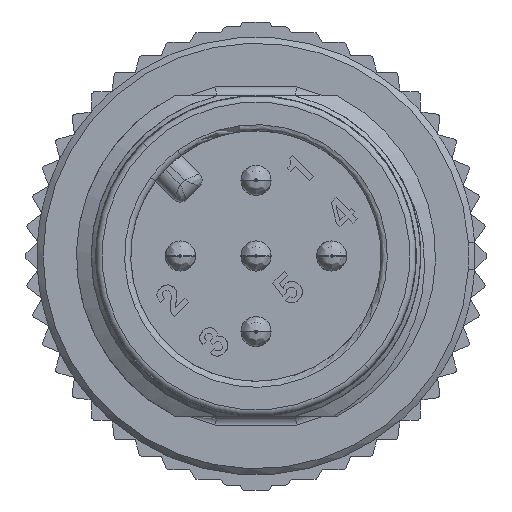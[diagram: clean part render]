
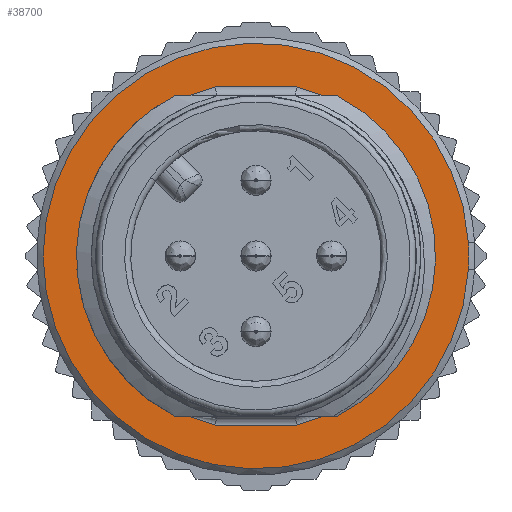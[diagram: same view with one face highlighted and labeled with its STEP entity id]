
A CAD part, left-side view. The second image highlights one B-rep face of the part: STEP entity #38700.
In plain terms, the highlighted planar face has unit normal (-1, 0, 0).
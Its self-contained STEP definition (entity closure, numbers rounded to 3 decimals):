
#29243=CARTESIAN_POINT('',(10.,0.,0.));
#29244=DIRECTION('',(-1.,0.,0.));
#29245=DIRECTION('',(0.,-0.998,0.063));
#29246=AXIS2_PLACEMENT_3D('',#29243,#29244,#29245);
#29248=CARTESIAN_POINT('',(10.,0.,0.));
#29249=DIRECTION('',(-1.,0.,0.));
#29250=DIRECTION('',(0.,-0.998,-0.063));
#29251=AXIS2_PLACEMENT_3D('',#29248,#29249,#29250);
#29253=DIRECTION('',(0.,1.,0.));
#29254=VECTOR('',#29253,2.684);
#29255=CARTESIAN_POINT('',(10.,-1.342,5.6));
#29256=LINE('',#29255,#29254);
#29257=DIRECTION('',(0.,-1.,0.));
#29258=VECTOR('',#29257,2.684);
#29259=CARTESIAN_POINT('',(10.,1.342,-5.6));
#29260=LINE('',#29259,#29258);
#30845=CARTESIAN_POINT('',(10.,0.,0.));
#30846=DIRECTION('',(1.,0.,0.));
#30847=DIRECTION('',(0.,-0.233,0.972));
#30848=AXIS2_PLACEMENT_3D('',#30845,#30846,#30847);
#32997=CARTESIAN_POINT('',(10.,0.,0.));
#32998=DIRECTION('',(1.,0.,0.));
#32999=DIRECTION('',(0.,0.233,-0.972));
#33000=AXIS2_PLACEMENT_3D('',#32997,#32998,#32999);
#36767=CARTESIAN_POINT('',(10.,-1.342,5.6));
#36768=CARTESIAN_POINT('',(10.,1.342,5.6));
#36769=VERTEX_POINT('',#36767);
#36770=VERTEX_POINT('',#36768);
#36775=CARTESIAN_POINT('',(10.,1.342,-5.6));
#36776=CARTESIAN_POINT('',(10.,-1.342,-5.6));
#36777=VERTEX_POINT('',#36775);
#36778=VERTEX_POINT('',#36776);
#37085=CARTESIAN_POINT('',(10.,-7.036,0.443));
#37086=CARTESIAN_POINT('',(10.,-7.036,-0.443));
#37087=VERTEX_POINT('',#37085);
#37088=VERTEX_POINT('',#37086);
#38680=CARTESIAN_POINT('',(10.,-6.78,6.78));
#38681=DIRECTION('',(-1.,0.,0.));
#38682=DIRECTION('',(0.,0.,-1.));
#38683=AXIS2_PLACEMENT_3D('',#38680,#38681,#38682);
#38684=PLANE('',#38683);
#38685=ORIENTED_EDGE('',*,*,#38557,.F.);
#38687=ORIENTED_EDGE('',*,*,#38686,.F.);
#38688=EDGE_LOOP('',(#38685,#38687));
#38689=FACE_OUTER_BOUND('',#38688,.F.);
#38691=ORIENTED_EDGE('',*,*,#38690,.F.);
#38693=ORIENTED_EDGE('',*,*,#38692,.T.);
#38695=ORIENTED_EDGE('',*,*,#38694,.F.);
#38697=ORIENTED_EDGE('',*,*,#38696,.T.);
#38698=EDGE_LOOP('',(#38691,#38693,#38695,#38697));
#38699=FACE_BOUND('',#38698,.F.);
#38700=ADVANCED_FACE('',(#38689,#38699),#38684,.T.);
#29247=CIRCLE('',#29246,7.05);
#29252=CIRCLE('',#29251,7.05);
#30849=CIRCLE('',#30848,5.759);
#33001=CIRCLE('',#33000,5.759);
#38557=EDGE_CURVE('',#37087,#37088,#29247,.T.);
#38686=EDGE_CURVE('',#37088,#37087,#29252,.T.);
#38690=EDGE_CURVE('',#36769,#36778,#30849,.T.);
#38692=EDGE_CURVE('',#36769,#36770,#29256,.T.);
#38694=EDGE_CURVE('',#36777,#36770,#33001,.T.);
#38696=EDGE_CURVE('',#36777,#36778,#29260,.T.);
